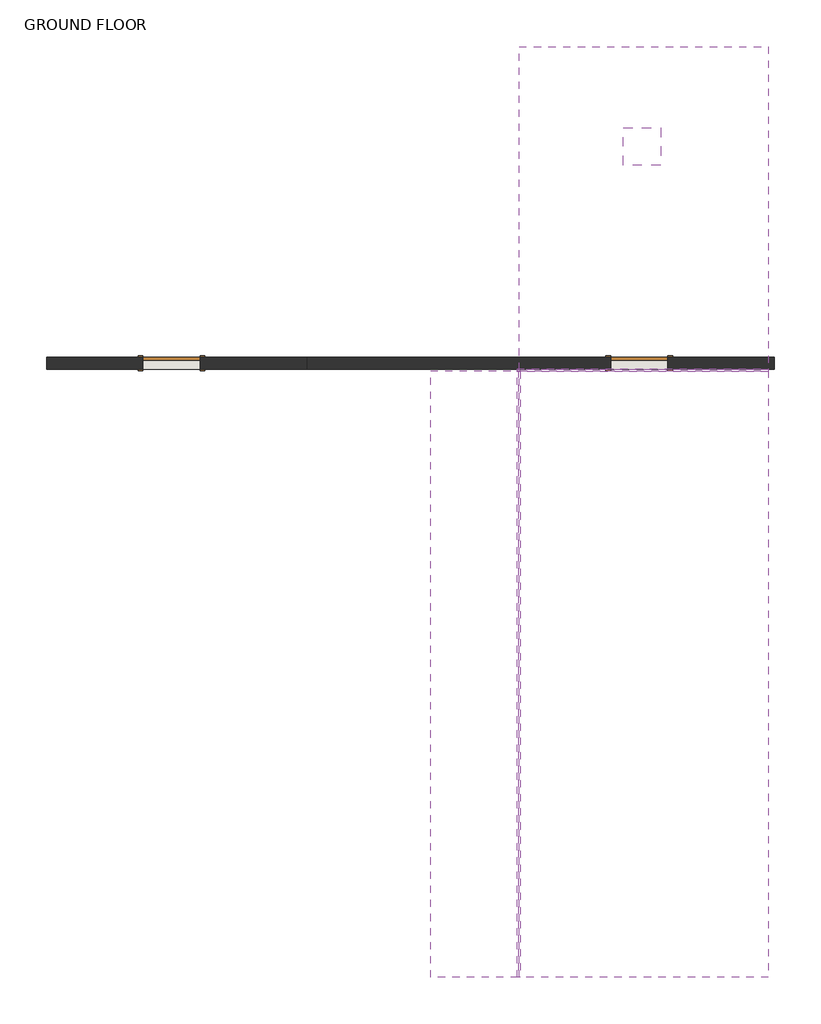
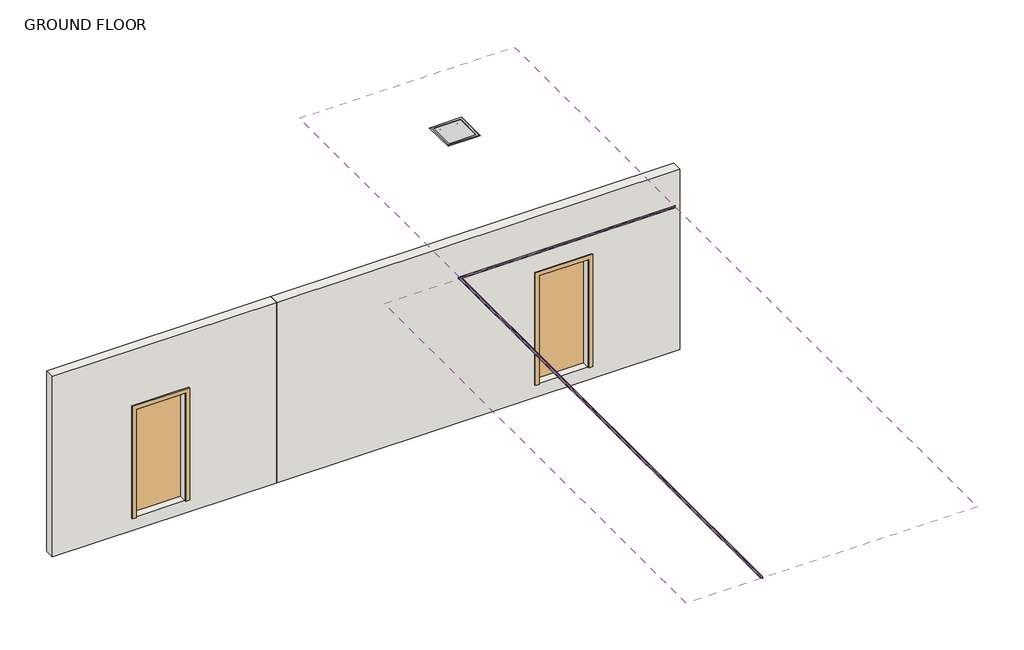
# One storey: 3 coverings, 3 proxies, 2 doors, 2 walls.
"""IFC4 building model written with IfcOpenShell, lengths in millimetres."""

from ifc_helpers import new_model, si_unit, point, frame, frame_2d, origin, place, context, project, spatial, polyline, circle_curve, trimmed, segment, composite_curve, outline, extrude, faceted_brep, transform, mapped, element, save
from components import m_single_flush_0915_x_2134mm_f5238887

model = new_model("IFC4")

# Units and contexts
model_context = context("Model", 3, world=origin())
ifc_project = project(units=[si_unit("LENGTHUNIT", "METRE", prefix="MILLI")], contexts=[model_context])

# Site, building, storey
site = spatial("IfcSite", under=ifc_project)
building = spatial("IfcBuilding", under=site)
storey = spatial("IfcBuildingStorey", under=building, Name="GROUND FLOOR", Elevation=0.0)

# Proxies
placement = place(None, origin())
element("IfcBuildingElementProxy", 1, Name="Flushline Outer Frame : Flushline Outer Frame", ObjectType="Flushline Outer Frame : Flushline Outer Frame", at=placement, inside=storey, context=model_context, shape_type="SolidModel", body=[
    faceted_brep([(204682.6212716, 45530.8898051, 2613.475), (205193.3212716, 45530.8898051, 2613.475), (205193.3212716, 46041.5898051, 2613.475), (204682.6212716, 46041.5898051, 2613.475), (204688.9712716, 45537.2398051, 2613.475), (204688.9712716, 46035.2398051, 2613.475), (205186.9712716, 46035.2398051, 2613.475), (205186.9712716, 45537.2398051, 2613.475), (204682.6212716, 45530.8898051, 2602.0), (204682.6212716, 46041.5898051, 2602.0), (205193.3212716, 46041.5898051, 2602.0), (205193.3212716, 45530.8898051, 2602.0), (204688.9712716, 45537.2398051, 2602.0), (205186.9712716, 45537.2398051, 2602.0), (205186.9712716, 46035.2398051, 2602.0), (204688.9712716, 46035.2398051, 2602.0), (204682.6212716, 46041.5898051, 2611.0), (204682.6212716, 45530.8898051, 2611.0), (205193.3212716, 46041.5898051, 2611.0), (205193.3212716, 45530.8898051, 2611.0)], [[[0, 1, 2, 3], [4, 5, 6, 7]], [[8, 9, 10, 11], [12, 13, 14, 15]], [[7, 13, 12, 4]], [[6, 14, 13, 7]], [[5, 15, 14, 6]], [[4, 12, 15, 5]], [[3, 16, 9, 8, 17, 0]], [[2, 18, 10, 9, 16, 3]], [[1, 19, 11, 10, 18, 2]], [[0, 17, 8, 11, 19, 1]]]),
    extrude(outline(polyline([(204688.9712716, 45537.2398051), (204688.9712716, 46035.2398051), (205186.9712716, 46035.2398051), (205186.9712716, 45537.2398051), (204688.9712716, 45537.2398051)])), frame((0.0, 0.0, 2602.0), z_axis=(0.0, 0.0, 1.0), x_axis=(1.0, 0.0, 0.0)), (0.0, 0.0, 1.0), 11.475),
    faceted_brep([(204688.9712716, 45537.2398051, 2623.0), (205186.9712716, 45537.2398051, 2623.0), (205186.9712716, 45537.2398051, 2613.475), (204688.9712716, 45537.2398051, 2613.475), (205186.9712716, 46035.2398051, 2623.0), (205186.9712716, 46035.2398051, 2613.475), (204688.9712716, 46035.2398051, 2623.0), (204688.9712716, 46035.2398051, 2613.475), (205237.7712716, 45486.4398051, 2613.475), (204638.1712716, 45486.4398051, 2613.475), (204638.1712716, 46086.0398051, 2613.475), (205237.7712716, 46086.0398051, 2613.475), (204650.8712716, 45499.1398051, 2623.0), (205225.0712716, 45499.1398051, 2623.0), (205225.0712716, 46073.3398051, 2623.0), (204650.8712716, 46073.3398051, 2623.0)], [[[0, 1, 2, 3]], [[1, 4, 5, 2]], [[4, 6, 7, 5]], [[8, 9, 10, 11], [3, 2, 5, 7]], [[12, 13, 14, 15], [1, 0, 6, 4]], [[6, 0, 3, 7]], [[9, 8, 13, 12]], [[8, 11, 14, 13]], [[11, 10, 15, 14]], [[10, 9, 12, 15]]]),
    extrude(outline(composite_curve([segment(trimmed(circle_curve(frame_2d((204778.9712716, 45968.8898051)), 10.0), [point((204778.9712716, 45978.8898051))], [point((204778.9712716, 45958.8898051))], False, "CARTESIAN"), True, "CONTINUOUS"), segment(trimmed(circle_curve(frame_2d((204778.9712716, 45968.8898051)), 10.0), [point((204778.9712716, 45958.8898051))], [point((204778.9712716, 45978.8898051))], False, "CARTESIAN"), True, "CONTINUOUS")], self_intersect=False)), frame((0.0, 0.0, 2595.65), z_axis=(0.0, 0.0, 1.0), x_axis=(1.0, 0.0, 0.0)), (0.0, 0.0, 1.0), 6.35),
    extrude(outline(composite_curve([segment(trimmed(circle_curve(frame_2d((205096.9712716, 45968.8898051)), 10.0), [point((205096.9712716, 45978.8898051))], [point((205096.9712716, 45958.8898051))], False, "CARTESIAN"), True, "CONTINUOUS"), segment(trimmed(circle_curve(frame_2d((205096.9712716, 45968.8898051)), 10.0), [point((205096.9712716, 45958.8898051))], [point((205096.9712716, 45978.8898051))], False, "CARTESIAN"), True, "CONTINUOUS")], self_intersect=False)), frame((0.0, 0.0, 2595.65), z_axis=(0.0, 0.0, 1.0), x_axis=(1.0, 0.0, 0.0)), (0.0, 0.0, 1.0), 6.35),
])
element("IfcBuildingElementProxy", 2, Name="TR14 : Trims Plaster Ceiling Junction", ObjectType="TR14 : Trims Plaster Ceiling Junction", at=placement, inside=storey, context=model_context, shape_type="Brep", body=[
    faceted_brep([(206960.7345529, 42192.9193804, 2630.0), (206960.7345529, 42191.9193804, 2630.0), (206960.7345529, 42191.9193804, 2600.0), (206960.7345529, 42176.9193804, 2600.0), (206960.7345529, 42176.9193804, 2599.0), (206960.7345529, 42192.9193804, 2599.0), (206960.7345529, 42192.9193804, 2614.0), (206960.7345529, 42207.9193804, 2614.0), (206960.7345529, 42207.9193804, 2599.0), (206960.7345529, 42208.9193804, 2599.0), (206960.7345529, 42208.9193804, 2611.0), (206960.7345529, 42223.9193804, 2611.0), (206960.7345529, 42223.9193804, 2612.0), (206960.7345529, 42208.9193804, 2612.0), (206960.7345529, 42208.9193804, 2615.0), (206960.7345529, 42192.9193804, 2615.0), (202935.7345529, 42192.9193804, 2630.0), (202935.7345529, 42192.9193804, 2615.0), (202935.7345529, 42208.9193804, 2615.0), (202935.7345529, 42208.9193804, 2612.0), (202935.7345529, 42223.9193804, 2612.0), (202935.7345529, 42223.9193804, 2611.0), (202935.7345529, 42208.9193804, 2611.0), (202935.7345529, 42208.9193804, 2599.0), (202935.7345529, 42207.9193804, 2599.0), (202935.7345529, 42207.9193804, 2614.0), (202935.7345529, 42192.9193804, 2614.0), (202935.7345529, 42192.9193804, 2599.0), (202935.7345529, 42176.9193804, 2599.0), (202935.7345529, 42176.9193804, 2600.0), (202935.7345529, 42191.9193804, 2600.0), (202935.7345529, 42191.9193804, 2611.0), (202935.7345529, 42191.9193804, 2612.0), (202935.7345529, 42191.9193804, 2630.0), (202950.7345529, 42191.9193804, 2599.0), (202950.7345529, 42191.9193804, 2600.0), (202950.7345529, 42176.9193804, 2600.0), (202950.7345529, 42176.9193804, 2599.0), (202951.7345529, 42191.9193804, 2600.0), (202951.7345529, 42191.9193804, 2599.0), (202951.7345529, 42176.9193804, 2599.0), (202951.7345529, 42176.9193804, 2600.0), (202966.7345529, 42191.9193804, 2599.0), (202966.7345529, 42191.9193804, 2600.0), (202966.7345529, 42176.9193804, 2600.0), (202966.7345529, 42176.9193804, 2599.0), (202982.7345529, 42191.9193804, 2600.0), (202982.7345529, 42191.9193804, 2599.0), (202982.7345529, 42176.9193804, 2599.0), (202982.7345529, 42176.9193804, 2600.0), (202966.7345529, 42191.9193804, 2630.0), (202967.7345529, 42191.9193804, 2630.0)], [[[0, 1, 2, 3, 4, 5, 6, 7, 8, 9, 10, 11, 12, 13, 14, 15]], [[16, 17, 18, 19, 20, 21, 22, 23, 24, 25, 26, 27, 28, 29, 30, 31, 32, 33]], [[34, 35, 36, 37]], [[38, 39, 40, 41]], [[42, 43, 44, 45]], [[46, 47, 48, 49]], [[33, 50, 51, 1, 0, 16]], [[0, 15, 17, 16]], [[15, 14, 18, 17]], [[14, 13, 19, 18]], [[13, 12, 20, 19]], [[12, 11, 21, 20]], [[11, 10, 22, 21]], [[10, 9, 23, 22]], [[9, 8, 24, 23]], [[8, 7, 25, 24]], [[7, 6, 26, 25]], [[6, 5, 27, 26]], [[5, 4, 48, 47, 42, 45, 40, 39, 34, 37, 28, 27]], [[4, 3, 49, 48]], [[3, 2, 46, 49]], [[2, 1, 51, 50, 33, 32, 31, 30, 35, 34, 39, 38, 43, 42, 47, 46]], [[40, 45, 44, 41]], [[29, 28, 37, 36]], [[41, 44, 43, 38]], [[30, 29, 36, 35]]]),
])
element("IfcBuildingElementProxy", 3, Name="TR14 : Trims Plaster Ceiling Junction", ObjectType="TR14 : Trims Plaster Ceiling Junction", at=placement, inside=storey, context=model_context, shape_type="Brep", body=[
    faceted_brep([(202967.7345529, 42191.9193804, 2630.0), (202967.7345529, 42191.9193804, 2600.0), (202982.7345529, 42191.9193804, 2600.0), (202982.7345529, 42191.9193804, 2599.0), (202966.7345529, 42191.9193804, 2599.0), (202966.7345529, 42191.9193804, 2600.0), (202966.7345529, 42191.9193804, 2614.0), (202951.7345529, 42191.9193804, 2614.0), (202951.7345529, 42191.9193804, 2600.0), (202951.7345529, 42191.9193804, 2599.0), (202950.7345529, 42191.9193804, 2599.0), (202950.7345529, 42191.9193804, 2600.0), (202950.7345529, 42191.9193804, 2611.0), (202935.7345529, 42191.9193804, 2611.0), (202935.7345529, 42191.9193804, 2612.0), (202950.7345529, 42191.9193804, 2612.0), (202950.7345529, 42191.9193804, 2615.0), (202966.7345529, 42191.9193804, 2615.0), (202966.7345529, 42191.9193804, 2630.0), (202967.7345529, 32461.9193804, 2630.0), (202966.7345529, 32461.9193804, 2630.0), (202966.7345529, 32461.9193804, 2615.0), (202950.7345529, 32461.9193804, 2615.0), (202950.7345529, 32461.9193804, 2612.0), (202935.7345529, 32461.9193804, 2612.0), (202935.7345529, 32461.9193804, 2611.0), (202950.7345529, 32461.9193804, 2611.0), (202950.7345529, 32461.9193804, 2599.0), (202951.7345529, 32461.9193804, 2599.0), (202951.7345529, 32461.9193804, 2614.0), (202966.7345529, 32461.9193804, 2614.0), (202966.7345529, 32461.9193804, 2599.0), (202982.7345529, 32461.9193804, 2599.0), (202982.7345529, 32461.9193804, 2600.0), (202967.7345529, 32461.9193804, 2600.0), (202950.7345529, 42176.9193804, 2599.0), (202951.7345529, 42176.9193804, 2599.0), (202966.7345529, 42176.9193804, 2599.0), (202982.7345529, 42176.9193804, 2599.0), (202982.7345529, 42176.9193804, 2600.0)], [[[0, 1, 2, 3, 4, 5, 6, 7, 8, 9, 10, 11, 12, 13, 14, 15, 16, 17, 18]], [[19, 20, 21, 22, 23, 24, 25, 26, 27, 28, 29, 30, 31, 32, 33, 34]], [[18, 20, 19, 0]], [[17, 21, 20, 18]], [[16, 22, 21, 17]], [[15, 23, 22, 16]], [[14, 24, 23, 15]], [[13, 25, 24, 14]], [[12, 26, 25, 13]], [[10, 35, 27, 26, 12, 11]], [[9, 36, 28, 27, 35, 10]], [[7, 29, 28, 36, 9, 8]], [[6, 30, 29, 7]], [[4, 37, 31, 30, 6, 5]], [[3, 38, 32, 31, 37, 4]], [[2, 39, 33, 32, 38, 3]], [[1, 34, 33, 39, 2]], [[0, 19, 34, 1]]]),
])

# Coverings
element("IfcCovering", 4, ObjectType="AMF Thermatex® Star - 600x600mm 2", at=placement, inside=storey, context=model_context, shape_type="Brep", body=[
    faceted_brep([(202967.7345529, 42191.9193804, 2616.0), (202967.7345529, 32461.9193804, 2616.0), (206966.7345529, 32461.9193804, 2616.0), (206966.7345529, 42191.9193804, 2616.0), (206960.7345529, 42191.9193804, 2616.0), (206966.7345529, 32461.9193804, 2600.0), (202967.7345529, 32461.9193804, 2600.0), (202967.7345529, 42176.9193804, 2600.0), (202967.7345529, 42191.9193804, 2600.0), (202982.7345529, 42191.9193804, 2600.0), (206960.7345529, 42191.9193804, 2600.0), (206966.7345529, 42191.9193804, 2600.0)], [[[0, 1, 2, 3, 4]], [[5, 6, 7, 8, 9, 10, 11]], [[8, 0, 4, 3, 11, 10, 9]], [[1, 0, 8, 7, 6]], [[2, 1, 6, 5]], [[3, 2, 5, 11]]]),
])
element("IfcCovering", 5, ObjectType="_C2.3 - 12mm FLUSHPLASTER CEILING (UNDER CONCRETE SOFFIT) - 9 mm", at=placement, inside=storey, context=model_context, shape_type="SweptSolid", body=[
    extrude(outline(polyline([(206966.7345529, 42208.9193804), (202967.7345529, 42208.9193804), (202967.7345529, 47387.9193804), (206966.7345529, 47387.9193804), (206966.7345529, 42208.9193804)]), holes=[polyline([(204682.6212716, 46041.5898051), (204682.6212716, 45530.8898051), (205193.3212716, 45530.8898051), (205193.3212716, 46041.5898051), (204682.6212716, 46041.5898051)])]), frame((0.0, 0.0, 2602.0), z_axis=(0.0, 0.0, 1.0), x_axis=(1.0, 0.0, 0.0)), (0.0, 0.0, 1.0), 9.0),
])
element("IfcCovering", 6, ObjectType="_C2.3 - 12mm FLUSHPLASTER CEILING (UNDER CONCRETE SOFFIT)", at=placement, inside=storey, context=model_context, shape_type="SweptSolid", body=[
    extrude(outline(polyline([(201547.7345529, 42191.9193804), (202950.7345529, 42191.9193804), (202950.7345529, 32461.9193804), (201547.7345529, 32461.9193804), (201547.7345529, 42191.9193804)])), frame((0.0, 0.0, 2600.0), z_axis=(0.0, 0.0, 1.0), x_axis=(1.0, 0.0, 0.0)), (0.0, 0.0, 1.0), 11.0),
])

# Doors
m_single_flush_0915_x_2134mm_shape = m_single_flush_0915_x_2134mm_f5238887(model_context)
element("IfcDoor", 7, ObjectType="M_Single-Flush : 0915 x 2134mm", at=placement, inside=storey, context=model_context, shape_type="MappedRepresentation", body=[
    mapped(m_single_flush_0915_x_2134mm_shape, transform((197394.7345529, 42312.9193804, 0.0), x_axis=(1.0, 0.0, 0.0), y_axis=(0.0, 1.0, 0.0), z_axis=(0.0, 0.0, 1.0))),
])
element("IfcDoor", 8, ObjectType="M_Single-Flush : 0915 x 2134mm", at=placement, inside=storey, context=model_context, shape_type="MappedRepresentation", body=[
    mapped(m_single_flush_0915_x_2134mm_shape, transform((204894.7345529, 42312.9193804, 0.0), x_axis=(1.0, 0.0, 0.0), y_axis=(0.0, 1.0, 0.0), z_axis=(0.0, 0.0, 1.0))),
])

# Walls
element("IfcWall", 9, ObjectType="190mm MAXI BLOCK- plastered", at=placement, inside=storey, context=model_context, shape_type="SweptSolid", body=[
    extrude(outline(polyline([(-250.0, 195391.2009755), (-250.0, 199561.7345529), (3300.0, 199561.7345529), (3300.0, 195391.2009755), (-250.0, 195391.2009755)]), holes=[polyline([(0.0, 196937.2345529), (2134.0, 196937.2345529), (2134.0, 197852.2345529), (0.0, 197852.2345529), (0.0, 196937.2345529)])]), frame((0.0, 42217.9193804, 0.0), z_axis=(0.0, 1.0, 0.0), x_axis=(0.0, 0.0, 1.0)), (0.0, 0.0, 1.0), 190.0),
])
element("IfcWall", 10, ObjectType="190mm MAXI BLOCK- plastered", at=placement, inside=storey, context=model_context, shape_type="SweptSolid", body=[
    extrude(outline(polyline([(-250.0, 199561.7345529), (-250.0, 207061.7345529), (3300.0, 207061.7345529), (3300.0, 199561.7345529), (-250.0, 199561.7345529)]), holes=[polyline([(0.0, 204437.2345529), (2134.0, 204437.2345529), (2134.0, 205352.2345529), (0.0, 205352.2345529), (0.0, 204437.2345529)])]), frame((0.0, 42217.9193804, 0.0), z_axis=(0.0, 1.0, 0.0), x_axis=(0.0, 0.0, 1.0)), (0.0, 0.0, 1.0), 190.0),
])

save(model, "model.ifc")
